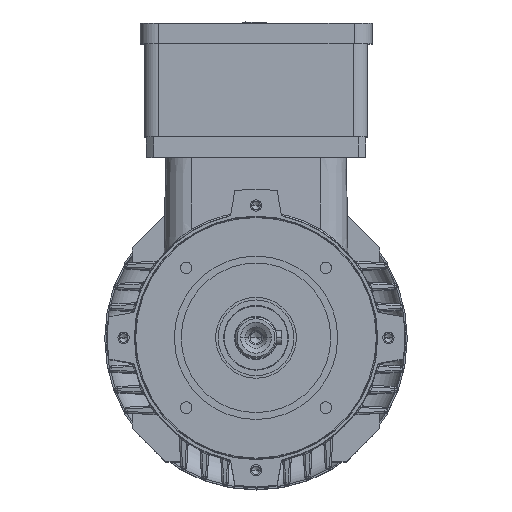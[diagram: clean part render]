
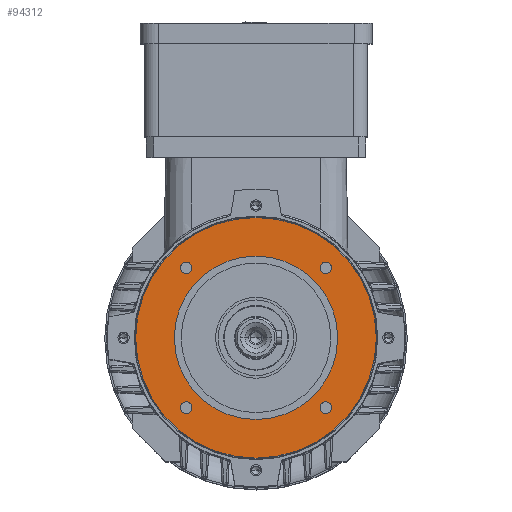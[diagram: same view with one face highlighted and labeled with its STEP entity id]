
A CAD part, top view. The second image highlights one B-rep face of the part: STEP entity #94312.
In plain terms, the highlighted planar face has unit normal (0, 0, 1).
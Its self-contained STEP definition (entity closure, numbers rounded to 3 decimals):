
#1630 = CIRCLE ( 'NONE', #76301, 3.4 ) ;
#1748 = ORIENTED_EDGE ( 'NONE', *, *, #112030, .F. ) ;
#1939 = VERTEX_POINT ( 'NONE', #4935 ) ;
#2441 = DIRECTION ( 'NONE',  ( 0., 0., -1. ) ) ;
#3091 = CIRCLE ( 'NONE', #96835, 70. ) ;
#4935 = CARTESIAN_POINT ( 'NONE',  ( -40.659, -37.259, 136.5 ) ) ;
#6646 = AXIS2_PLACEMENT_3D ( 'NONE', #110302, #111215, #56301 ) ;
#8527 = ORIENTED_EDGE ( 'NONE', *, *, #27993, .F. ) ;
#9038 = AXIS2_PLACEMENT_3D ( 'NONE', #16245, #48446, #38000 ) ;
#9424 = CIRCLE ( 'NONE', #83736, 3.4 ) ;
#9940 = ORIENTED_EDGE ( 'NONE', *, *, #136414, .F. ) ;
#10339 = CARTESIAN_POINT ( 'NONE',  ( -40.659, -40.659, 136.5 ) ) ;
#10475 = ORIENTED_EDGE ( 'NONE', *, *, #120569, .F. ) ;
#12704 = CARTESIAN_POINT ( 'NONE',  ( 44.059, 40.659, 136.5 ) ) ;
#15628 = VERTEX_POINT ( 'NONE', #40912 ) ;
#15962 = DIRECTION ( 'NONE',  ( 0., 0., -1. ) ) ;
#16245 = CARTESIAN_POINT ( 'NONE',  ( 0., 70., 136.5 ) ) ;
#16356 = AXIS2_PLACEMENT_3D ( 'NONE', #56562, #121510, #89252 ) ;
#18128 = DIRECTION ( 'NONE',  ( 0., 0., 1. ) ) ;
#18199 = ORIENTED_EDGE ( 'NONE', *, *, #111348, .F. ) ;
#18860 = AXIS2_PLACEMENT_3D ( 'NONE', #48171, #15962, #47213 ) ;
#18969 = CARTESIAN_POINT ( 'NONE',  ( -70., 0., 136.5 ) ) ;
#19557 = VERTEX_POINT ( 'NONE', #88142 ) ;
#19835 = CIRCLE ( 'NONE', #115419, 3.4 ) ;
#20102 = CIRCLE ( 'NONE', #34545, 3.4 ) ;
#22816 = EDGE_CURVE ( 'NONE', #118719, #1939, #20102, .T. ) ;
#23274 = VERTEX_POINT ( 'NONE', #57955 ) ;
#27993 = EDGE_CURVE ( 'NONE', #84370, #89386, #108448, .T. ) ;
#28179 = ORIENTED_EDGE ( 'NONE', *, *, #103699, .T. ) ;
#32650 = ORIENTED_EDGE ( 'NONE', *, *, #87660, .F. ) ;
#33522 = AXIS2_PLACEMENT_3D ( 'NONE', #60973, #136846, #125405 ) ;
#34282 = CARTESIAN_POINT ( 'NONE',  ( 0., 0., 136.5 ) ) ;
#34545 = AXIS2_PLACEMENT_3D ( 'NONE', #10339, #52517, #52039 ) ;
#34558 = CARTESIAN_POINT ( 'NONE',  ( -40.659, 40.659, 136.5 ) ) ;
#34632 = EDGE_CURVE ( 'NONE', #89386, #84370, #1630, .T. ) ;
#38000 = DIRECTION ( 'NONE',  ( -1., 0., 0. ) ) ;
#38153 = ORIENTED_EDGE ( 'NONE', *, *, #137040, .F. ) ;
#39232 = CARTESIAN_POINT ( 'NONE',  ( -40.659, 40.659, 136.5 ) ) ;
#40141 = CARTESIAN_POINT ( 'NONE',  ( -40.659, -44.059, 136.5 ) ) ;
#40486 = VERTEX_POINT ( 'NONE', #138550 ) ;
#40912 = CARTESIAN_POINT ( 'NONE',  ( -40.659, 37.259, 136.5 ) ) ;
#44056 = DIRECTION ( 'NONE',  ( 0., 1., 0. ) ) ;
#44064 = CIRCLE ( 'NONE', #6646, 3.4 ) ;
#45782 = FACE_BOUND ( 'NONE', #119546, .T. ) ;
#47213 = DIRECTION ( 'NONE',  ( -1., 0., 0. ) ) ;
#47778 = DIRECTION ( 'NONE',  ( 0., 0., 1. ) ) ;
#48171 = CARTESIAN_POINT ( 'NONE',  ( 0., 0., 136.5 ) ) ;
#48446 = DIRECTION ( 'NONE',  ( 0., 0., -1. ) ) ;
#48515 = AXIS2_PLACEMENT_3D ( 'NONE', #34282, #2441, #67377 ) ;
#52039 = DIRECTION ( 'NONE',  ( 0., 1., 0. ) ) ;
#52517 = DIRECTION ( 'NONE',  ( 0., 0., 1. ) ) ;
#56301 = DIRECTION ( 'NONE',  ( 0., 1., 0. ) ) ;
#56562 = CARTESIAN_POINT ( 'NONE',  ( 0., 0., 136.5 ) ) ;
#57955 = CARTESIAN_POINT ( 'NONE',  ( -40.659, 44.059, 136.5 ) ) ;
#59547 = VERTEX_POINT ( 'NONE', #18969 ) ;
#60973 = CARTESIAN_POINT ( 'NONE',  ( 40.659, 40.659, 136.5 ) ) ;
#64912 = DIRECTION ( 'NONE',  ( 1., 0., 0. ) ) ;
#65892 = CIRCLE ( 'NONE', #18860, 47.5 ) ;
#66538 = EDGE_CURVE ( 'NONE', #23274, #15628, #108466, .T. ) ;
#66937 = EDGE_LOOP ( 'NONE', ( #113254, #8527 ) ) ;
#67377 = DIRECTION ( 'NONE',  ( -1., 0., 0. ) ) ;
#69021 = CARTESIAN_POINT ( 'NONE',  ( -40.659, -40.659, 136.5 ) ) ;
#70173 = EDGE_LOOP ( 'NONE', ( #77273, #38153 ) ) ;
#70913 = DIRECTION ( 'NONE',  ( 0., 0., 1. ) ) ;
#73445 = ORIENTED_EDGE ( 'NONE', *, *, #93106, .T. ) ;
#75930 = DIRECTION ( 'NONE',  ( -1., 0., 0. ) ) ;
#76212 = FACE_OUTER_BOUND ( 'NONE', #81650, .T. ) ;
#76301 = AXIS2_PLACEMENT_3D ( 'NONE', #118064, #128466, #64912 ) ;
#76680 = DIRECTION ( 'NONE',  ( 0., 0., 1. ) ) ;
#77273 = ORIENTED_EDGE ( 'NONE', *, *, #66538, .F. ) ;
#77699 = VERTEX_POINT ( 'NONE', #90254 ) ;
#81650 = EDGE_LOOP ( 'NONE', ( #1748, #32650 ) ) ;
#83736 = AXIS2_PLACEMENT_3D ( 'NONE', #69021, #47778, #90865 ) ;
#84029 = AXIS2_PLACEMENT_3D ( 'NONE', #34558, #76680, #44056 ) ;
#84370 = VERTEX_POINT ( 'NONE', #110670 ) ;
#87079 = VERTEX_POINT ( 'NONE', #97280 ) ;
#87660 = EDGE_CURVE ( 'NONE', #77699, #59547, #3091, .T. ) ;
#87941 = CIRCLE ( 'NONE', #114337, 3.4 ) ;
#88142 = CARTESIAN_POINT ( 'NONE',  ( 40.659, -44.059, 136.5 ) ) ;
#89252 = DIRECTION ( 'NONE',  ( -1., 0., 0. ) ) ;
#89386 = VERTEX_POINT ( 'NONE', #12704 ) ;
#90254 = CARTESIAN_POINT ( 'NONE',  ( 70., 0., 136.5 ) ) ;
#90865 = DIRECTION ( 'NONE',  ( 0., 1., 0. ) ) ;
#93106 = EDGE_CURVE ( 'NONE', #40486, #99413, #65892, .T. ) ;
#93854 = CARTESIAN_POINT ( 'NONE',  ( 40.659, -40.659, 136.5 ) ) ;
#94312 = ADVANCED_FACE ( 'NONE', ( #101705, #76212, #45782, #108503, #130536, #118728 ), #102905, .F. ) ;
#94481 = CIRCLE ( 'NONE', #16356, 47.5 ) ;
#96835 = AXIS2_PLACEMENT_3D ( 'NONE', #96838, #119629, #75930 ) ;
#96838 = CARTESIAN_POINT ( 'NONE',  ( 0., 0., 136.5 ) ) ;
#97280 = CARTESIAN_POINT ( 'NONE',  ( 40.659, -37.259, 136.5 ) ) ;
#99413 = VERTEX_POINT ( 'NONE', #123888 ) ;
#101705 = FACE_BOUND ( 'NONE', #66937, .T. ) ;
#102905 = PLANE ( 'NONE',  #9038 ) ;
#103699 = EDGE_CURVE ( 'NONE', #99413, #40486, #94481, .T. ) ;
#108448 = CIRCLE ( 'NONE', #33522, 3.4 ) ;
#108466 = CIRCLE ( 'NONE', #84029, 3.4 ) ;
#108503 = FACE_BOUND ( 'NONE', #70173, .T. ) ;
#110302 = CARTESIAN_POINT ( 'NONE',  ( 40.659, -40.659, 136.5 ) ) ;
#110670 = CARTESIAN_POINT ( 'NONE',  ( 37.259, 40.659, 136.5 ) ) ;
#111215 = DIRECTION ( 'NONE',  ( 0., 0., 1. ) ) ;
#111348 = EDGE_CURVE ( 'NONE', #1939, #118719, #9424, .T. ) ;
#112030 = EDGE_CURVE ( 'NONE', #59547, #77699, #124629, .T. ) ;
#113254 = ORIENTED_EDGE ( 'NONE', *, *, #34632, .F. ) ;
#114337 = AXIS2_PLACEMENT_3D ( 'NONE', #93854, #18128, #125654 ) ;
#114604 = DIRECTION ( 'NONE',  ( 0., 1., 0. ) ) ;
#115060 = ORIENTED_EDGE ( 'NONE', *, *, #22816, .F. ) ;
#115419 = AXIS2_PLACEMENT_3D ( 'NONE', #39232, #70913, #114604 ) ;
#118064 = CARTESIAN_POINT ( 'NONE',  ( 40.659, 40.659, 136.5 ) ) ;
#118719 = VERTEX_POINT ( 'NONE', #40141 ) ;
#118728 = FACE_BOUND ( 'NONE', #120928, .T. ) ;
#119546 = EDGE_LOOP ( 'NONE', ( #73445, #28179 ) ) ;
#119629 = DIRECTION ( 'NONE',  ( 0., 0., -1. ) ) ;
#120569 = EDGE_CURVE ( 'NONE', #87079, #19557, #44064, .T. ) ;
#120928 = EDGE_LOOP ( 'NONE', ( #10475, #9940 ) ) ;
#121510 = DIRECTION ( 'NONE',  ( 0., 0., -1. ) ) ;
#123888 = CARTESIAN_POINT ( 'NONE',  ( 47.5, 0., 136.5 ) ) ;
#124507 = EDGE_LOOP ( 'NONE', ( #18199, #115060 ) ) ;
#124629 = CIRCLE ( 'NONE', #48515, 70. ) ;
#125405 = DIRECTION ( 'NONE',  ( 1., 0., 0. ) ) ;
#125654 = DIRECTION ( 'NONE',  ( 0., 1., 0. ) ) ;
#128466 = DIRECTION ( 'NONE',  ( 0., 0., 1. ) ) ;
#130536 = FACE_BOUND ( 'NONE', #124507, .T. ) ;
#136414 = EDGE_CURVE ( 'NONE', #19557, #87079, #87941, .T. ) ;
#136846 = DIRECTION ( 'NONE',  ( 0., 0., 1. ) ) ;
#137040 = EDGE_CURVE ( 'NONE', #15628, #23274, #19835, .T. ) ;
#138550 = CARTESIAN_POINT ( 'NONE',  ( -47.5, 0., 136.5 ) ) ;
